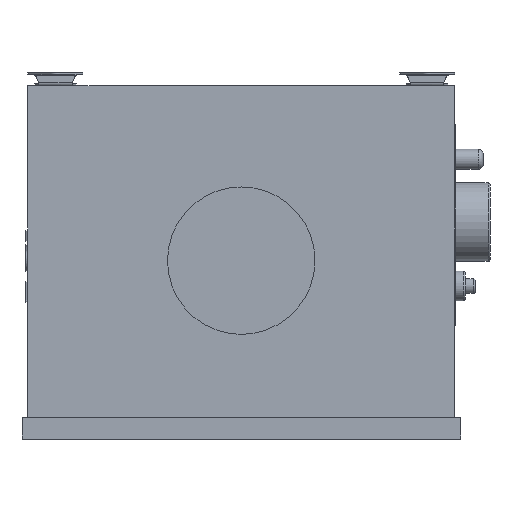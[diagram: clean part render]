
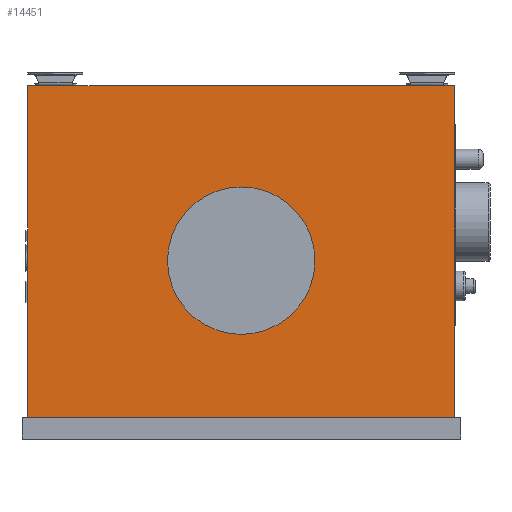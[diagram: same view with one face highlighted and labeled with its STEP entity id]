
A CAD part, front view. The second image highlights one B-rep face of the part: STEP entity #14451.
In plain terms, the highlighted planar face has unit normal (0, -1, 0).
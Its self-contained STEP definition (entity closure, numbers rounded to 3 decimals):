
#174=CIRCLE('',#15024,75.);
#317=FACE_BOUND('',#2255,.T.);
#1437=FACE_OUTER_BOUND('',#2254,.T.);
#2254=EDGE_LOOP('',(#13092,#13093,#13094,#13095));
#2255=EDGE_LOOP('',(#13096));
#3218=LINE('',#25505,#4446);
#3481=LINE('',#30285,#4709);
#3482=LINE('',#30287,#4710);
#3483=LINE('',#30288,#4711);
#4446=VECTOR('',#16462,10.);
#4709=VECTOR('',#17373,10.);
#4710=VECTOR('',#17376,10.);
#4711=VECTOR('',#17377,10.);
#6532=VERTEX_POINT('',#25501);
#6534=VERTEX_POINT('',#25504);
#6822=VERTEX_POINT('',#30256);
#6830=VERTEX_POINT('',#30281);
#6831=VERTEX_POINT('',#30283);
#8476=EDGE_CURVE('',#6534,#6532,#3218,.T.);
#8919=EDGE_CURVE('',#6822,#6822,#174,.T.);
#8932=EDGE_CURVE('',#6830,#6831,#3481,.T.);
#8933=EDGE_CURVE('',#6830,#6532,#3482,.T.);
#8934=EDGE_CURVE('',#6534,#6831,#3483,.T.);
#13092=ORIENTED_EDGE('',*,*,#8933,.F.);
#13093=ORIENTED_EDGE('',*,*,#8932,.T.);
#13094=ORIENTED_EDGE('',*,*,#8934,.F.);
#13095=ORIENTED_EDGE('',*,*,#8476,.T.);
#13096=ORIENTED_EDGE('',*,*,#8919,.T.);
#13469=PLANE('',#15036);
#14451=ADVANCED_FACE('',(#1437,#317),#13469,.T.);
#15024=AXIS2_PLACEMENT_3D('',#30257,#17342,#17343);
#15036=AXIS2_PLACEMENT_3D('',#30286,#17374,#17375);
#16462=DIRECTION('',(0.,0.,-1.));
#17342=DIRECTION('center_axis',(0.,1.,0.));
#17343=DIRECTION('ref_axis',(1.,0.,0.));
#17373=DIRECTION('',(0.,0.,1.));
#17374=DIRECTION('center_axis',(0.,-1.,0.));
#17375=DIRECTION('ref_axis',(1.,0.,0.));
#17376=DIRECTION('',(-1.,0.,0.));
#17377=DIRECTION('',(1.,0.,0.));
#25501=CARTESIAN_POINT('',(-305.802,-31.496,-157.75));
#25504=CARTESIAN_POINT('',(-305.802,-31.496,179.75));
#25505=CARTESIAN_POINT('',(-305.802,-31.496,-157.75));
#30256=CARTESIAN_POINT('',(-163.802,-31.496,1.75));
#30257=CARTESIAN_POINT('Origin',(-88.802,-31.496,1.75));
#30281=CARTESIAN_POINT('',(128.198,-31.496,-157.75));
#30283=CARTESIAN_POINT('',(128.198,-31.496,179.75));
#30285=CARTESIAN_POINT('',(128.198,-31.496,-157.75));
#30286=CARTESIAN_POINT('Origin',(-305.802,-31.496,-157.75));
#30287=CARTESIAN_POINT('',(128.198,-31.496,-157.75));
#30288=CARTESIAN_POINT('',(-305.802,-31.496,179.75));
